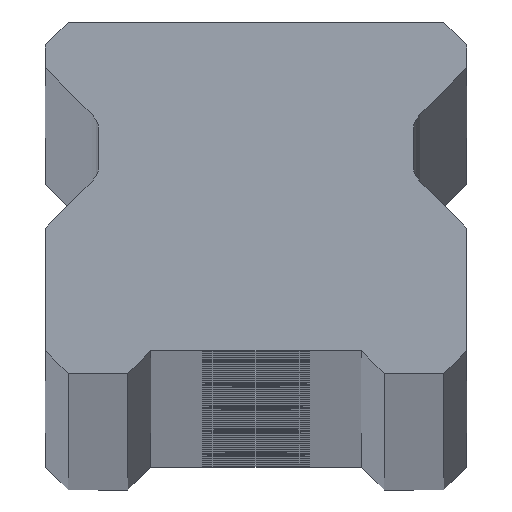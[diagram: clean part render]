
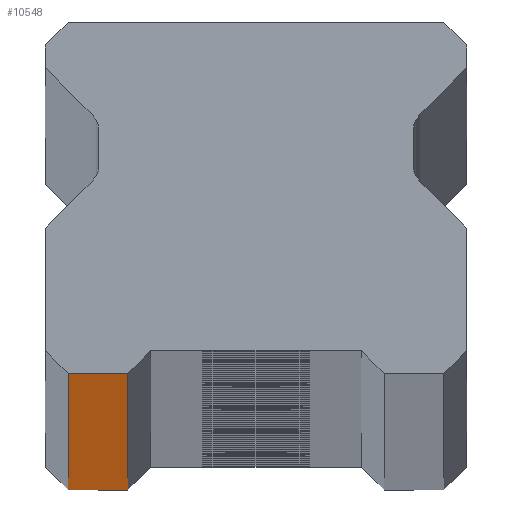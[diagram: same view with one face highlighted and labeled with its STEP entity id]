
A CAD part, top view. The second image highlights one B-rep face of the part: STEP entity #10548.
In plain terms, the highlighted planar face has unit normal (0, -1, 0).
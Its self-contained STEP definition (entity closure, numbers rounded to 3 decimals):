
#75 = VECTOR ( 'NONE', #2949, 1000. ) ;
#155 = DIRECTION ( 'NONE',  ( 1., 0., 0. ) ) ;
#240 = DIRECTION ( 'NONE',  ( 0., 1., 0. ) ) ;
#335 = PLANE ( 'NONE',  #3128 ) ;
#669 = ORIENTED_EDGE ( 'NONE', *, *, #4460, .T. ) ;
#1010 = CARTESIAN_POINT ( 'NONE',  ( -10.25, 0., 1820. ) ) ;
#1084 = ORIENTED_EDGE ( 'NONE', *, *, #2864, .T. ) ;
#1161 = CARTESIAN_POINT ( 'NONE',  ( -7., 0., -1820. ) ) ;
#1851 = VECTOR ( 'NONE', #1995, 1000. ) ;
#1990 = CARTESIAN_POINT ( 'NONE',  ( -10.25, 0., 1820. ) ) ;
#1995 = DIRECTION ( 'NONE',  ( 0., 0., -1. ) ) ;
#2189 = DIRECTION ( 'NONE',  ( 0., 0., 1. ) ) ;
#2864 = EDGE_CURVE ( 'NONE', #10623, #6970, #9620, .T. ) ;
#2949 = DIRECTION ( 'NONE',  ( 1., 0., 0. ) ) ;
#3089 = CARTESIAN_POINT ( 'NONE',  ( -7., 0., -1820. ) ) ;
#3107 = CARTESIAN_POINT ( 'NONE',  ( -7., 0., 1820. ) ) ;
#3128 = AXIS2_PLACEMENT_3D ( 'NONE', #8659, #240, #11351 ) ;
#3792 = CARTESIAN_POINT ( 'NONE',  ( 11.5, 0., -1820. ) ) ;
#4460 = EDGE_CURVE ( 'NONE', #7592, #5429, #8132, .T. ) ;
#5316 = ORIENTED_EDGE ( 'NONE', *, *, #7468, .T. ) ;
#5429 = VERTEX_POINT ( 'NONE', #3107 ) ;
#6371 = EDGE_CURVE ( 'NONE', #10623, #5429, #9437, .T. ) ;
#6736 = EDGE_LOOP ( 'NONE', ( #5316, #669, #7201, #1084 ) ) ;
#6970 = VERTEX_POINT ( 'NONE', #11461 ) ;
#7201 = ORIENTED_EDGE ( 'NONE', *, *, #6371, .F. ) ;
#7468 = EDGE_CURVE ( 'NONE', #6970, #7592, #9416, .T. ) ;
#7592 = VERTEX_POINT ( 'NONE', #1161 ) ;
#8132 = LINE ( 'NONE', #3089, #10354 ) ;
#8526 = VECTOR ( 'NONE', #155, 1000. ) ;
#8537 = CARTESIAN_POINT ( 'NONE',  ( 11.5, 0., 1820. ) ) ;
#8659 = CARTESIAN_POINT ( 'NONE',  ( 11.5, 0., 1820. ) ) ;
#9416 = LINE ( 'NONE', #3792, #8526 ) ;
#9437 = LINE ( 'NONE', #8537, #75 ) ;
#9447 = FACE_OUTER_BOUND ( 'NONE', #6736, .T. ) ;
#9620 = LINE ( 'NONE', #1010, #1851 ) ;
#10354 = VECTOR ( 'NONE', #2189, 1000. ) ;
#10548 = ADVANCED_FACE ( 'NONE', ( #9447 ), #335, .F. ) ;
#10623 = VERTEX_POINT ( 'NONE', #1990 ) ;
#11351 = DIRECTION ( 'NONE',  ( -1., 0., 0. ) ) ;
#11461 = CARTESIAN_POINT ( 'NONE',  ( -10.25, 0., -1820. ) ) ;
